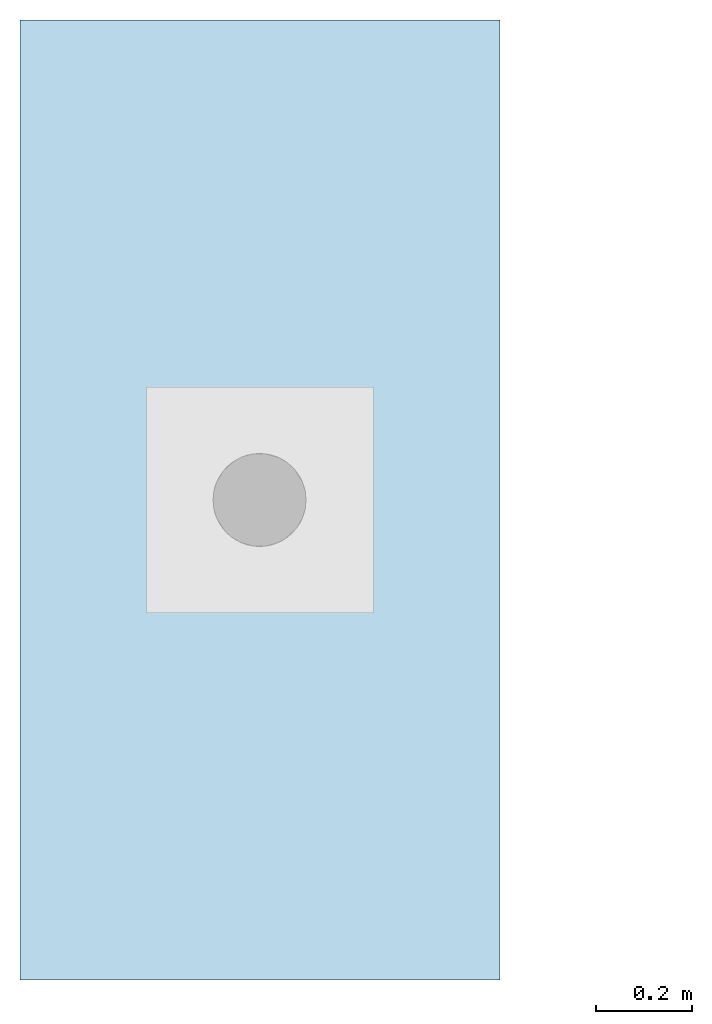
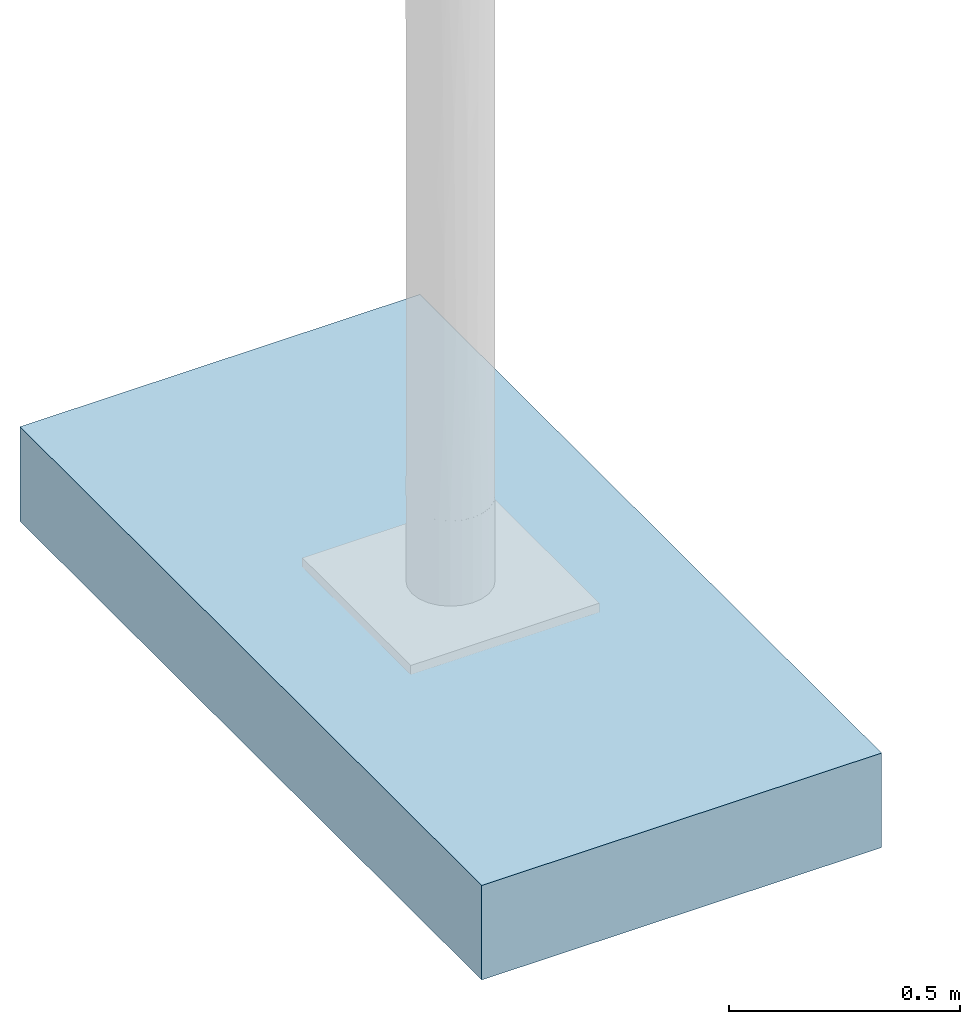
# One storey, incomplete: 1 slab.
"""IFC4 building model written with IfcOpenShell, lengths in metres."""

from ifc_helpers import new_model, entity, si_unit, converted_unit, direction, frame, frame_2d, origin, place, context, subcontext, project, spatial, rectangle, extrude, type_object, element, save


model = new_model("IFC4")

# Units and contexts
model_context = context("Model", 3, precision=1e-05, world=origin(), true_north=direction((6.123031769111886e-17, 1.0)))
body_context = subcontext(model_context, "Body", "Model", "MODEL_VIEW")
ifc_project = project(units=[si_unit("LENGTHUNIT", "METRE"), converted_unit("PLANEANGLEUNIT", "DEGREE", entity("IfcPlaneAngleMeasure", 0.017453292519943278), si_unit("PLANEANGLEUNIT", "RADIAN"), dimensions=[0, 0, 0, 0, 0, 0, 0]), si_unit("AREAUNIT", "SQUARE_METRE")], contexts=[model_context])

# Site, building, storey
site_placement = place(None, origin())
site = spatial("IfcSite", under=ifc_project, at=site_placement, Name="Default", CompositionType="ELEMENT")
building_placement = place(site_placement, origin())
building = spatial("IfcBuilding", under=site, at=building_placement, CompositionType="ELEMENT")
storey_placement = place(building_placement, origin())
storey = spatial("IfcBuildingStorey", under=building, at=storey_placement, Name="Ebene 0", CompositionType="ELEMENT", Elevation=0.0)

# Slab
slab_type = type_object("IfcSlabType", Name="DB_ZIM_Fundament:DB_ZIM_Fundament", PredefinedType="BASESLAB")
slab_placement = place(storey_placement, origin())
element("IfcSlab", 1, at=slab_placement, inside=storey, type_object=slab_type, Name="DB_ZIM_Fundament:DB_ZIM_Fundament", ObjectType="DB_ZIM_Fundament:DB_ZIM_Fundament", PredefinedType="BASESLAB", context=body_context, shape_type="SweptSolid", body=[
    extrude(rectangle(XDim=0.9999999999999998, YDim=2.0, at=frame_2d((0.09999999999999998, 0.0), x_axis=(1.0, 0.0))), frame((-0.0990499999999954, 0.0, -0.49995000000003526)), (0.0, 0.0, 1.0), 0.25),
])

save(model, "model.ifc")
